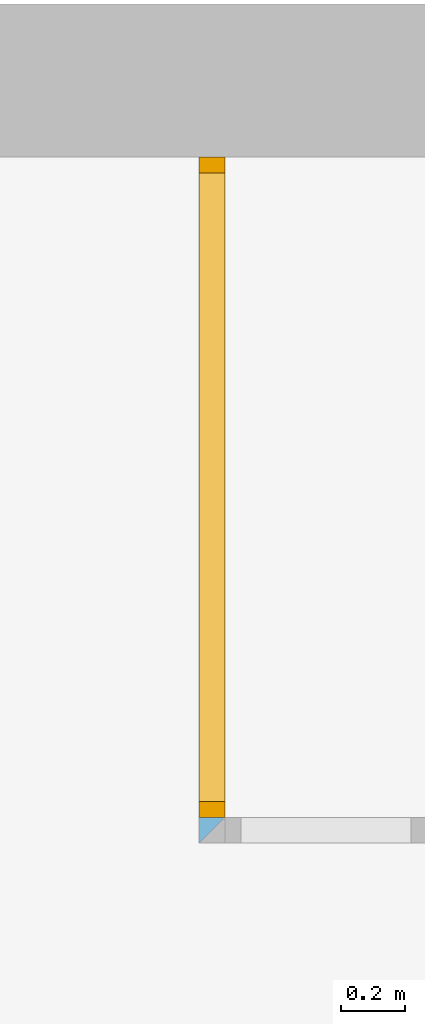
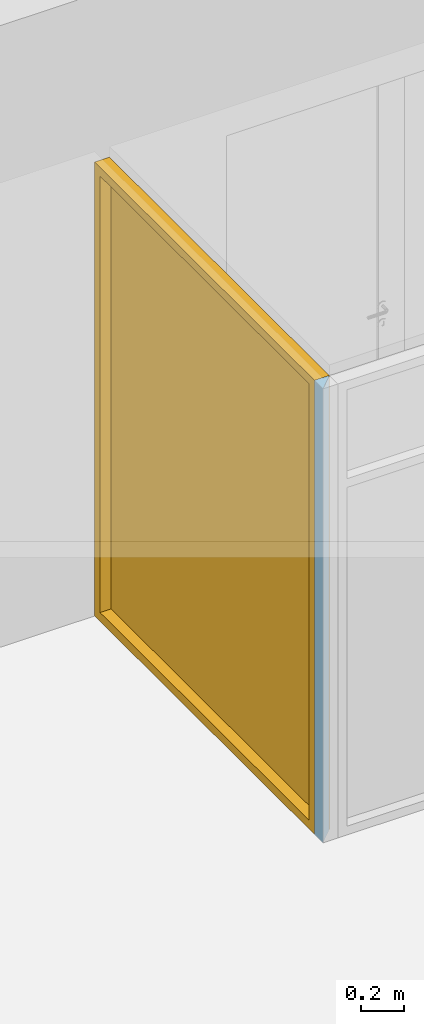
# One storey, part 43 of 91: 1 window, 1 opening, plus 1 element that does not belong to this part.
"""IFC2X3 building model written with IfcOpenShell, lengths in metres."""

from ifc_helpers import new_model, entity, si_unit, converted_unit, derived_unit, money_unit, direction, frame, origin_with_axes, origin_2d_with_axis, place, context, subcontext, project, spatial, polyline, rectangle, outline, extrude, open_shell, faceted_brep, surface_model, material, layer, layer_set, layer_usage, type_object, element, fill, save


model = new_model("IFC2X3")

# Units and contexts
model_context = context("Model", 3, precision=1e-05, world=origin_with_axes(), true_north=direction((0.0, 1.0)))
body_context = subcontext(model_context, "Body", "Model", "MODEL_VIEW")
ifc_project = project(units=[si_unit("LENGTHUNIT", "METRE"), si_unit("AREAUNIT", "SQUARE_METRE"), si_unit("VOLUMEUNIT", "CUBIC_METRE"), converted_unit("PLANEANGLEUNIT", "DEGREE", entity("IfcPlaneAngleMeasure", 0.0174532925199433), si_unit("PLANEANGLEUNIT", "RADIAN"), dimensions=[0, 0, 0, 0, 0, 0, 0]), money_unit("EUR"), converted_unit("TIMEUNIT", "Year", entity("IfcTimeMeasure", 31557600.0), si_unit("TIMEUNIT", "SECOND"), dimensions=[0, 0, 1, 0, 0, 0, 0]), si_unit("MASSUNIT", "GRAM", prefix="KILO"), si_unit("THERMODYNAMICTEMPERATUREUNIT", "DEGREE_CELSIUS"), si_unit("LUMINOUSINTENSITYUNIT", "LUMEN"), si_unit("ENERGYUNIT", "JOULE", prefix="MEGA"), derived_unit("THERMALCONDUCTANCEUNIT", [(si_unit("POWERUNIT", "WATT"), 1), (si_unit("LENGTHUNIT", "METRE"), -1), (si_unit("THERMODYNAMICTEMPERATUREUNIT", "KELVIN"), -1)]), derived_unit("SPECIFICHEATCAPACITYUNIT", [(si_unit("ENERGYUNIT", "JOULE"), 1), (si_unit("MASSUNIT", "GRAM", prefix="KILO"), -1), (si_unit("THERMODYNAMICTEMPERATUREUNIT", "KELVIN"), -1)]), derived_unit("MASSDENSITYUNIT", [(si_unit("MASSUNIT", "GRAM", prefix="KILO"), 1), (si_unit("VOLUMEUNIT", "CUBIC_METRE"), -1)])], contexts=[model_context])

# Site, building, storey
site_placement = place(None, origin_with_axes())
site = spatial("IfcSite", under=ifc_project, at=site_placement, Name="Site", CompositionType="ELEMENT")
building_placement = place(site_placement, origin_with_axes())
building = spatial("IfcBuilding", under=site, at=building_placement, Name="Bâtiment", CompositionType="ELEMENT")
storey_placement = place(building_placement, origin_with_axes())
storey = spatial("IfcBuildingStorey", under=building, at=storey_placement, Name="RDC", CompositionType="ELEMENT", Elevation=0.0)

# Wall, opening, window
ifc_material_1 = material(Name="Finition int - Plaque de plâtre")
ifc_layer_1 = layer(ifc_material_1, 0.013, ventilated="UNKNOWN")
ifc_material_2 = material(Name="Isolation - Laine de verre")
ifc_layer_2 = layer(ifc_material_2, 0.048, ventilated="UNKNOWN")
ifc_layer_3 = layer(ifc_material_1, 0.013, ventilated="UNKNOWN")
ifc_layer_set = layer_set([ifc_layer_1, ifc_layer_2, ifc_layer_3], Name="*Cloison 72")
ifc_layer_usage = layer_usage(ifc_layer_set, "AXIS2", "POSITIVE", 0.0)
wall_type = type_object("IfcWallType", Name="*Cloison 72 74", PredefinedType="NOTDEFINED")
wall_placement = place(storey_placement, frame((51.14542091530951, -11.25756213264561, 0.0), z_axis=(0.0, 0.0, 1.0), x_axis=(0.0, -1.0, 0.0)))
wall = element("IfcWallStandardCase", 1, at=wall_placement, inside=storey, type_object=wall_type, material=ifc_layer_usage, Name="Cloisons ép. 72mm", context=body_context, shape_type="SweptSolid", body=[
    extrude(outline(polyline([(0.0, 0.0), (2.142999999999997, 0.0), (2.068999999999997, 0.07399999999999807), (0.0, 0.07399999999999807), (0.0, 0.0)])), origin_with_axes(), (0.0, 0.0, 1.0), 2.6),
])
opening_placement = place(wall_placement, frame((1.031499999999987, 0.0, 0.0), z_axis=(0.0, 0.0, 1.0), x_axis=(1.0, 0.0, 0.0)))
opening = element("IfcOpeningElement", 2, at=opening_placement, cuts=wall, Name="PC.01b", context=body_context, shape_type="SweptSolid", body=[
    extrude(rectangle(XDim=2.062999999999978, YDim=2.6, at=origin_2d_with_axis()), frame((0.0, 0.07399999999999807, 1.3), z_axis=(0.0, -1.0, 0.0), x_axis=(1.0, 0.0, 0.0)), (0.0, 0.0, 1.0), 0.222),
])
window_style = type_object("IfcWindowStyle", Name="Fenêtre 27", ConstructionType="NOTDEFINED", OperationType="SINGLE_PANEL", ParameterTakesPrecedence=False, Sizeable=False)
window_placement = place(opening_placement, frame((-1.031499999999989, 0.0, 0.0), z_axis=(0.0, 0.0, 1.0), x_axis=(1.0, 0.0, 0.0)))
window = element("IfcWindow", 3, at=window_placement, inside=storey, type_object=window_style, Name="PC.01b", OverallHeight=2.6, OverallWidth=2.063, context=body_context, shape_type="SurfaceModel", body=[
    faceted_brep([(0.05000000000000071, 0.0, 2.55), (0.05000000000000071, 0.0799999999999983, 2.55), (0.0, 0.0799999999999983, 2.6), (0.0, 0.0, 2.6), (0.05000000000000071, 0.0, 0.05), (0.05000000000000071, 0.0799999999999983, 0.05), (0.0, 0.0799999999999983, 0.0), (0.0, 0.0, 0.0)], [[[0, 1, 2, 3]], [[4, 5, 1, 0]], [[1, 5, 6, 2]], [[3, 2, 6, 7]], [[0, 3, 7, 4]], [[7, 6, 5, 4]]]),
    faceted_brep([(2.012999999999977, 0.0, 0.05), (2.012999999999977, 0.0799999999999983, 0.05), (2.062999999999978, 0.0799999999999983, 0.0), (2.062999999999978, 0.0, 0.0), (2.012999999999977, 0.0, 2.55), (2.012999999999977, 0.0799999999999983, 2.55), (2.062999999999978, 0.0799999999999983, 2.6), (2.062999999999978, 0.0, 2.6)], [[[0, 1, 2, 3]], [[4, 5, 1, 0]], [[1, 5, 6, 2]], [[3, 2, 6, 7]], [[0, 3, 7, 4]], [[7, 6, 5, 4]]]),
    faceted_brep([(0.05000000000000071, 0.0, 0.05), (0.05000000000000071, 0.0799999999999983, 0.05), (0.0, 0.0799999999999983, 0.0), (0.0, 0.0, 0.0), (2.012999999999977, 0.0, 0.05), (2.012999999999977, 0.0799999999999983, 0.05), (2.062999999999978, 0.0799999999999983, 0.0), (2.062999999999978, 0.0, 0.0)], [[[0, 1, 2, 3]], [[4, 5, 1, 0]], [[1, 5, 6, 2]], [[3, 2, 6, 7]], [[0, 3, 7, 4]], [[7, 6, 5, 4]]]),
    faceted_brep([(2.012999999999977, 0.0, 2.55), (2.012999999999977, 0.0799999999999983, 2.55), (2.062999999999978, 0.0799999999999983, 2.6), (2.062999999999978, 0.0, 2.6), (0.05000000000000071, 0.0, 2.55), (0.05000000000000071, 0.0799999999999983, 2.55), (0.0, 0.0799999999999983, 2.6), (0.0, 0.0, 2.6)], [[[0, 1, 2, 3]], [[4, 5, 1, 0]], [[1, 5, 6, 2]], [[3, 2, 6, 7]], [[0, 3, 7, 4]], [[7, 6, 5, 4]]]),
    surface_model("IfcShellBasedSurfaceModel", [(0.05000000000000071, 0.05999999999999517, 0.05), (2.012999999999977, 0.05999999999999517, 0.05), (2.012999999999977, 0.05999999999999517, 2.55), (0.05000000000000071, 0.05999999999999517, 2.55)], [open_shell([[[0, 1, 2, 3]]])]),
    surface_model("IfcShellBasedSurfaceModel", [(0.05000000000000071, 0.0799999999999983, 0.05), (0.05000000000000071, 0.0799999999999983, 2.55), (2.012999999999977, 0.0799999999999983, 2.55), (2.012999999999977, 0.0799999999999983, 0.05)], [open_shell([[[0, 1, 2, 3]]])]),
])
fill(opening, window)

save(model, "model.ifc")
